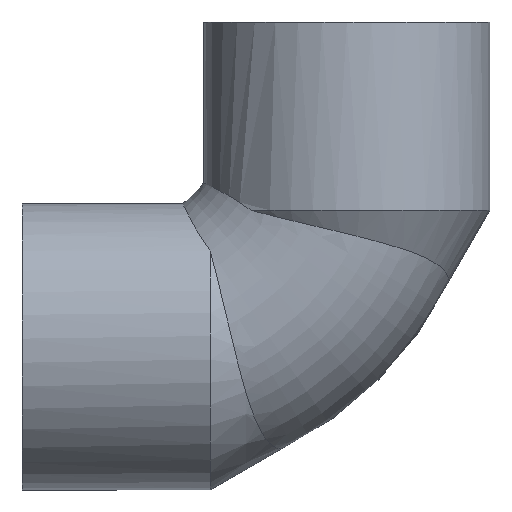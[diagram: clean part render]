
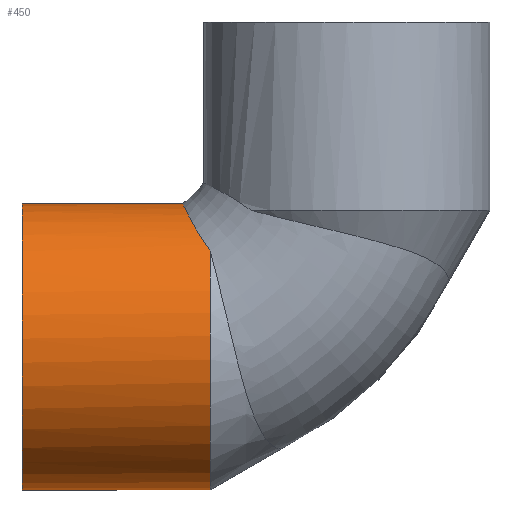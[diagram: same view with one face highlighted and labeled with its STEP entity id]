
A CAD part, top view. The second image highlights one B-rep face of the part: STEP entity #450.
In plain terms, the highlighted cylindrical face has radius 8.2 mm (diameter 16.4 mm), a partial arc.
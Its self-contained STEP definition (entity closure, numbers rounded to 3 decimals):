
#219=CARTESIAN_POINT('',(3.6,-4.8,0.));
#220=VERTEX_POINT('',#219);
#356=CARTESIAN_POINT('',(5.188,-21.2,0.));
#357=VERTEX_POINT('',#356);
#364=CARTESIAN_POINT('',(5.188,-7.518,6.098));
#365=VERTEX_POINT('',#364);
#387=CARTESIAN_POINT('',(5.188,-13.,0.0));
#388=DIRECTION('',(-1.0,0.0,0.0));
#389=DIRECTION('',(0.0,-1.0,0.0));
#390=AXIS2_PLACEMENT_3D('',#387,#388,#389);
#391=CIRCLE('',#390,8.2);
#392=EDGE_CURVE('',#357,#365,#391,.T.);
#397=CARTESIAN_POINT('',(-0.206,-13.,0.0));
#398=DIRECTION('',(-1.0,0.,0.0));
#399=DIRECTION('',(0.0,-1.0,0.0));
#400=AXIS2_PLACEMENT_3D('',#397,#398,#399);
#401=CYLINDRICAL_SURFACE('',#400,8.2);
#402=CARTESIAN_POINT('',(-5.6,-21.2,0.));
#403=VERTEX_POINT('',#402);
#404=CARTESIAN_POINT('',(5.188,-21.2,0.));
#405=DIRECTION('',(-1.0,0.0,0.0));
#406=VECTOR('',#405,10.788);
#407=LINE('',#404,#406);
#408=EDGE_CURVE('',#357,#403,#407,.T.);
#409=ORIENTED_EDGE('',*,*,#408,.F.);
#410=ORIENTED_EDGE('',*,*,#392,.T.);
#411=CARTESIAN_POINT('',(3.6,-4.8,0.));
#412=CARTESIAN_POINT('',(3.6,-4.8,0.231));
#413=CARTESIAN_POINT('',(3.605,-4.81,0.462));
#414=CARTESIAN_POINT('',(3.655,-4.913,1.684));
#415=CARTESIAN_POINT('',(3.783,-5.178,2.646));
#416=CARTESIAN_POINT('',(4.186,-5.948,4.264));
#417=CARTESIAN_POINT('',(4.425,-6.387,4.898));
#418=CARTESIAN_POINT('',(4.859,-7.064,5.666));
#419=CARTESIAN_POINT('',(5.013,-7.29,5.893));
#420=CARTESIAN_POINT('',(5.188,-7.518,6.098));
#421=B_SPLINE_CURVE_WITH_KNOTS('',3,(#411,#412,#413,#414,#415,#416,#417,#418,#419,#420),.UNSPECIFIED.,.F.,.U.,(4,2,2,2,4),(-0.664,-0.601,-0.333,-0.106,0.0),.UNSPECIFIED.);
#422=EDGE_CURVE('',#220,#365,#421,.T.);
#423=ORIENTED_EDGE('',*,*,#422,.F.);
#424=CARTESIAN_POINT('',(-5.6,-4.8,0.));
#425=VERTEX_POINT('',#424);
#426=CARTESIAN_POINT('',(-5.6,-4.8,0.));
#427=DIRECTION('',(1.0,0.0,0.0));
#428=VECTOR('',#427,9.2);
#429=LINE('',#426,#428);
#430=EDGE_CURVE('',#425,#220,#429,.T.);
#431=ORIENTED_EDGE('',*,*,#430,.F.);
#432=CARTESIAN_POINT('',(-5.6,-18.798,5.798));
#433=VERTEX_POINT('',#432);
#434=CARTESIAN_POINT('',(-5.6,-13.,0.0));
#435=DIRECTION('',(-1.0,0.0,0.0));
#436=DIRECTION('',(0.0,-1.0,0.0));
#437=AXIS2_PLACEMENT_3D('',#434,#435,#436);
#438=CIRCLE('',#437,8.2);
#439=EDGE_CURVE('',#433,#425,#438,.T.);
#440=ORIENTED_EDGE('',*,*,#439,.F.);
#441=CARTESIAN_POINT('',(-5.6,-13.,0.0));
#442=DIRECTION('',(-1.0,0.0,0.0));
#443=DIRECTION('',(0.0,-1.0,0.0));
#444=AXIS2_PLACEMENT_3D('',#441,#442,#443);
#445=CIRCLE('',#444,8.2);
#446=EDGE_CURVE('',#403,#433,#445,.T.);
#447=ORIENTED_EDGE('',*,*,#446,.F.);
#448=EDGE_LOOP('',(#409,#410,#423,#431,#440,#447));
#449=FACE_OUTER_BOUND('',#448,.T.);
#450=ADVANCED_FACE('',(#449),#401,.T.);
